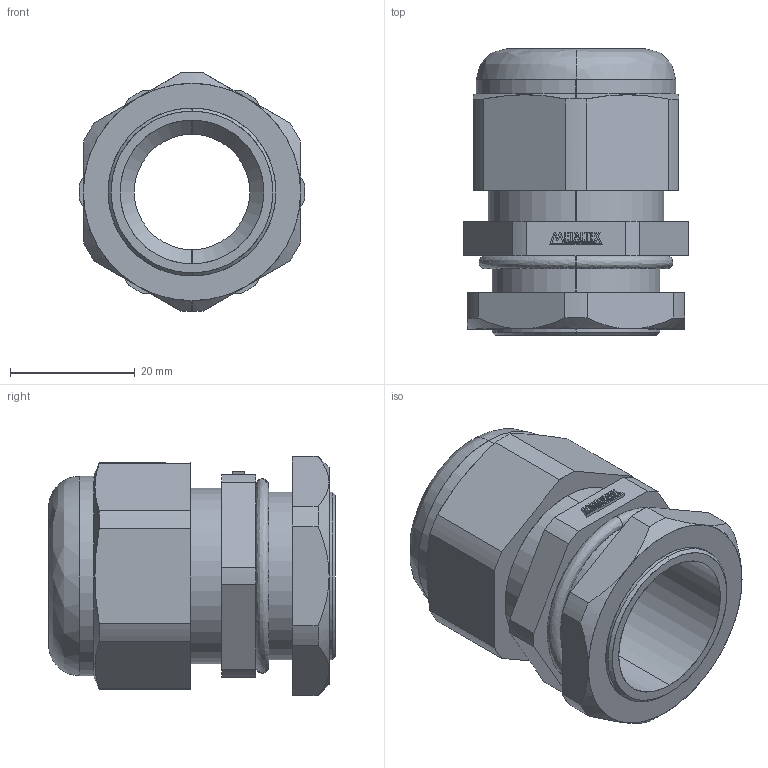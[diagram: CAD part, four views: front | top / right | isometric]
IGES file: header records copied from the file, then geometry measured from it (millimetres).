
Start section: SolidWorks IGES file using analytic representation for surfaces
Global section: file name: D:\X - Arquivos\PROEX\Empresas\P11 - METALTEX\01 - Produtos\IGES\Terceira remessa\Etapa 2\CH-M27.IGS; native system: SolidWorks 2012; preprocessor: SolidWorks 2012; author: Usuario; date: 180207.124436; units: millimetre
Bounding box: 36.09 x 45.9 x 38.3 mm (x, y, z)
Surface area: 10493.4 mm2 (no closed solid volume)
Topology: 0 solids, 0 shells, 174 faces, 1419 edges, 1419 vertices
Faces by surface type: bspline 125, revolution 49
